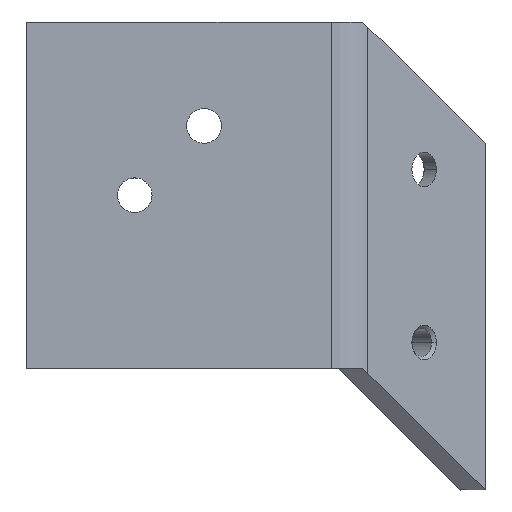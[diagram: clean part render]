
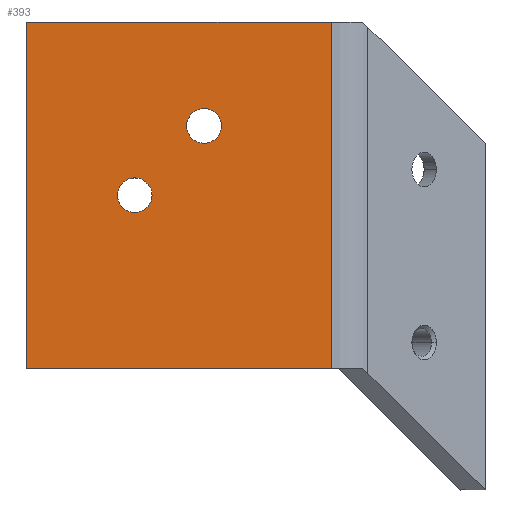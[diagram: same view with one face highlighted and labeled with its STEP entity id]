
A CAD part, top view. The second image highlights one B-rep face of the part: STEP entity #393.
In plain terms, the highlighted planar face has unit normal (0, 0, 1).
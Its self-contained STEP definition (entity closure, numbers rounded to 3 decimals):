
#6 = VERTEX_POINT ( 'NONE', #449 ) ;
#15 = VERTEX_POINT ( 'NONE', #419 ) ;
#20 = VERTEX_POINT ( 'NONE', #464 ) ;
#22 = VERTEX_POINT ( 'NONE', #455 ) ;
#27 = VERTEX_POINT ( 'NONE', #423 ) ;
#29 = ORIENTED_EDGE ( 'NONE', *, *, #838, .F. ) ;
#35 = VERTEX_POINT ( 'NONE', #470 ) ;
#44 = VERTEX_POINT ( 'NONE', #442 ) ;
#69 = VERTEX_POINT ( 'NONE', #440 ) ;
#95 = ORIENTED_EDGE ( 'NONE', *, *, #774, .F. ) ;
#100 = ORIENTED_EDGE ( 'NONE', *, *, #800, .T. ) ;
#102 = ORIENTED_EDGE ( 'NONE', *, *, #817, .T. ) ;
#104 = ORIENTED_EDGE ( 'NONE', *, *, #834, .T. ) ;
#105 = ORIENTED_EDGE ( 'NONE', *, *, #779, .T. ) ;
#115 = ORIENTED_EDGE ( 'NONE', *, *, #781, .F. ) ;
#146 = ORIENTED_EDGE ( 'NONE', *, *, #788, .F. ) ;
#149 = EDGE_LOOP ( 'NONE', ( #146, #115 ) ) ;
#179 = EDGE_LOOP ( 'NONE', ( #104, #102, #105, #100 ) ) ;
#182 = EDGE_LOOP ( 'NONE', ( #29, #95 ) ) ;
#215 = FACE_BOUND ( 'NONE', #182, .T. ) ;
#224 = FACE_OUTER_BOUND ( 'NONE', #179, .T. ) ;
#250 = FACE_BOUND ( 'NONE', #149, .T. ) ;
#292 = LINE ( 'NONE', #637, #310 ) ;
#295 = CIRCLE ( 'NONE', #888, 1. ) ;
#310 = VECTOR ( 'NONE', #647, 1000. ) ;
#313 = CIRCLE ( 'NONE', #875, 1. ) ;
#338 = CIRCLE ( 'NONE', #885, 1. ) ;
#357 = LINE ( 'NONE', #689, #379 ) ;
#359 = VECTOR ( 'NONE', #686, 1000. ) ;
#366 = LINE ( 'NONE', #663, #373 ) ;
#368 = LINE ( 'NONE', #684, #359 ) ;
#373 = VECTOR ( 'NONE', #666, 1000. ) ;
#376 = CIRCLE ( 'NONE', #848, 1. ) ;
#379 = VECTOR ( 'NONE', #700, 1000. ) ;
#393 = ADVANCED_FACE ( 'NONE', ( #215, #250, #224 ), #441, .T. ) ;
#419 = CARTESIAN_POINT ( 'NONE',  ( -1.757, 0., 2. ) ) ;
#423 = CARTESIAN_POINT ( 'NONE',  ( -9., -10., 2. ) ) ;
#440 = CARTESIAN_POINT ( 'NONE',  ( 2.243, 4., 2. ) ) ;
#441 = PLANE ( 'NONE',  #805 ) ;
#442 = CARTESIAN_POINT ( 'NONE',  ( 8.586, 10., 2. ) ) ;
#443 = DIRECTION ( 'NONE',  ( 1., 0., 0. ) ) ;
#449 = CARTESIAN_POINT ( 'NONE',  ( -9., 10., 2. ) ) ;
#455 = CARTESIAN_POINT ( 'NONE',  ( 0.243, 4., 2. ) ) ;
#456 = DIRECTION ( 'NONE',  ( 0., 0., 1. ) ) ;
#464 = CARTESIAN_POINT ( 'NONE',  ( -3.757, 0., 2. ) ) ;
#470 = CARTESIAN_POINT ( 'NONE',  ( 8.586, -10., 2. ) ) ;
#471 = CARTESIAN_POINT ( 'NONE',  ( 0., 0., 2. ) ) ;
#610 = DIRECTION ( 'NONE',  ( 1., 0., 0. ) ) ;
#611 = DIRECTION ( 'NONE',  ( 1., 0., 0. ) ) ;
#615 = CARTESIAN_POINT ( 'NONE',  ( 1.243, 4., 2. ) ) ;
#616 = DIRECTION ( 'NONE',  ( 0., 0., 1. ) ) ;
#623 = CARTESIAN_POINT ( 'NONE',  ( 1.243, 4., 2. ) ) ;
#630 = CARTESIAN_POINT ( 'NONE',  ( -2.757, 0., 2. ) ) ;
#632 = DIRECTION ( 'NONE',  ( 0., 0., 1. ) ) ;
#636 = DIRECTION ( 'NONE',  ( 1., 0., 0. ) ) ;
#637 = CARTESIAN_POINT ( 'NONE',  ( -9., 10., 2. ) ) ;
#647 = DIRECTION ( 'NONE',  ( -1., 0., 0. ) ) ;
#648 = DIRECTION ( 'NONE',  ( 0., 0., 1. ) ) ;
#663 = CARTESIAN_POINT ( 'NONE',  ( -9., 10., 2. ) ) ;
#666 = DIRECTION ( 'NONE',  ( 0., -1., 0. ) ) ;
#684 = CARTESIAN_POINT ( 'NONE',  ( 8.586, 0., 2. ) ) ;
#686 = DIRECTION ( 'NONE',  ( 0., 1., 0. ) ) ;
#689 = CARTESIAN_POINT ( 'NONE',  ( -9., -10., 2. ) ) ;
#690 = DIRECTION ( 'NONE',  ( 1., 0., 0. ) ) ;
#700 = DIRECTION ( 'NONE',  ( 1., 0., 0. ) ) ;
#704 = DIRECTION ( 'NONE',  ( 0., 0., 1. ) ) ;
#730 = CARTESIAN_POINT ( 'NONE',  ( -2.757, 0., 2. ) ) ;
#774 = EDGE_CURVE ( 'NONE', #20, #15, #313, .T. ) ;
#779 = EDGE_CURVE ( 'NONE', #44, #6, #292, .T. ) ;
#781 = EDGE_CURVE ( 'NONE', #22, #69, #295, .T. ) ;
#788 = EDGE_CURVE ( 'NONE', #69, #22, #338, .T. ) ;
#800 = EDGE_CURVE ( 'NONE', #6, #27, #366, .T. ) ;
#805 = AXIS2_PLACEMENT_3D ( 'NONE', #471, #456, #443 ) ;
#817 = EDGE_CURVE ( 'NONE', #35, #44, #368, .T. ) ;
#834 = EDGE_CURVE ( 'NONE', #27, #35, #357, .T. ) ;
#838 = EDGE_CURVE ( 'NONE', #15, #20, #376, .T. ) ;
#848 = AXIS2_PLACEMENT_3D ( 'NONE', #730, #704, #690 ) ;
#875 = AXIS2_PLACEMENT_3D ( 'NONE', #630, #648, #610 ) ;
#885 = AXIS2_PLACEMENT_3D ( 'NONE', #615, #616, #636 ) ;
#888 = AXIS2_PLACEMENT_3D ( 'NONE', #623, #632, #611 ) ;
